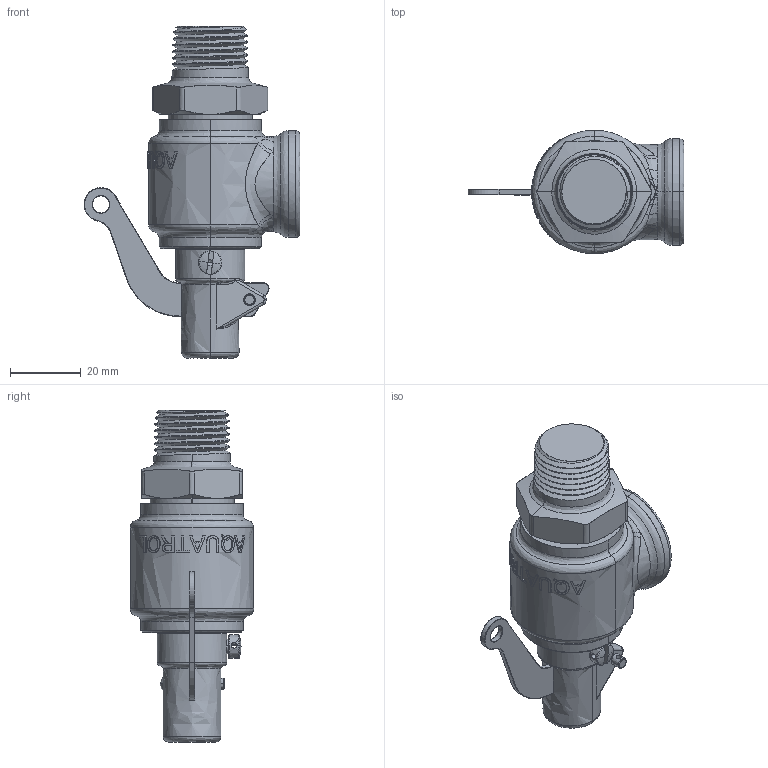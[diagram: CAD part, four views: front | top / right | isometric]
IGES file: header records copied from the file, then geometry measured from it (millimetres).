
Start section: SolidWorks IGES file using NURBS representation for surfaces
Global section: file name: C:\Design\Design\Aquatrol\Customer 3D Files\Series 130 Customer Files\Series 133\Series 133 500 inch\Series 133 500 x 500.IGS; native system: SolidWorks 2015; preprocessor: SolidWorks 2015; author: Karl; date: 150702.130819; units: inch
Bounding box: 61.12 x 34.92 x 94.03 mm (x, y, z)
Surface area: 13203.6 mm2 (no closed solid volume)
Topology: 0 solids, 0 shells, 399 faces, 5909 edges, 5897 vertices
Faces by surface type: bspline 399
